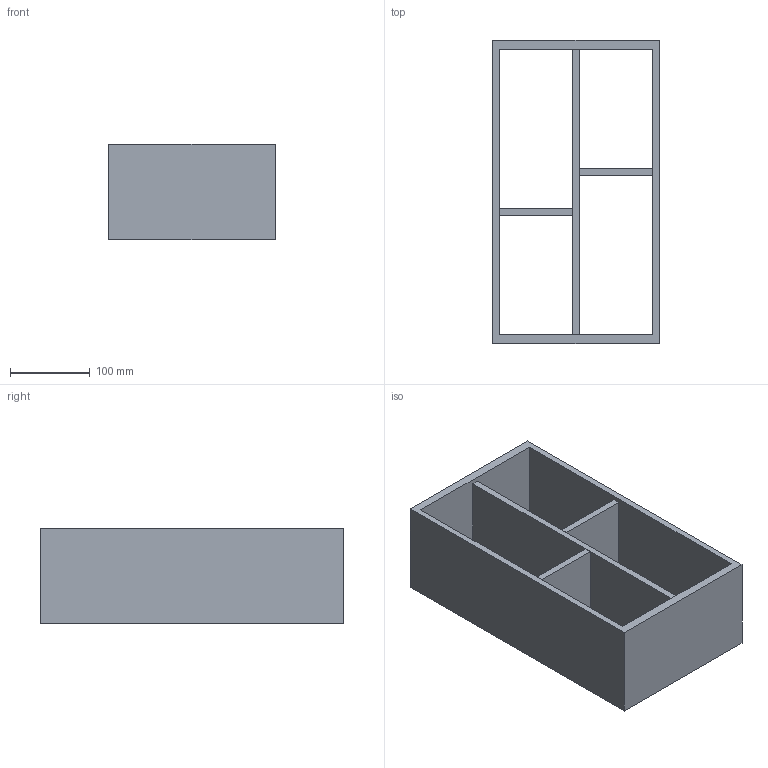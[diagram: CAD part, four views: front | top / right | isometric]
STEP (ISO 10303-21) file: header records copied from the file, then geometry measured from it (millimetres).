
FILE_DESCRIPTION (( 'STEP AP214' ), '1' );
FILE_NAME ('Vario Multi H120 NL450_B300_16 mm_Alu-Alu.step', '2010-10-08T09:47:52', ( 'grass' ), ( '' ), 'SwSTEP 2.0', 'SolidWorks 2010', '' );
FILE_SCHEMA (( 'AUTOMOTIVE_DESIGN' ));
Length unit declared in the file: millimetre
Products named in the file (1): Vario Multi H120 NL450_B300_16 mm_Alu-Alu
Bounding box: 208 x 379 x 120 mm (x, y, z)
Volume: 1727879.3 mm3; surface area: 419730.9 mm2
Topology: 1 solids, 1 shells, 22 faces, 60 edges, 40 vertices
Faces by surface type: plane 22
Entity records: 734 total; most frequent: CARTESIAN_POINT 123, ORIENTED_EDGE 120, DIRECTION 106, VECTOR 60, LINE 60, EDGE_CURVE 60, VERTEX_POINT 40, EDGE_LOOP 30
